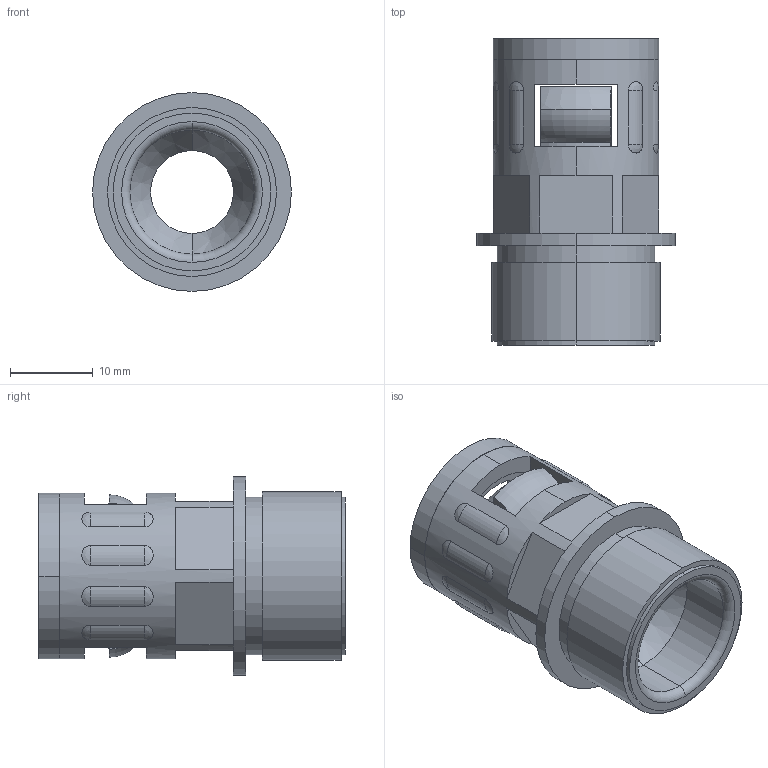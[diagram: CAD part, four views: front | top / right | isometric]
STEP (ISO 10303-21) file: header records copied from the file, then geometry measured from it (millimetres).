
FILE_DESCRIPTION (( 'STEP AP203' ), '1' );
FILE_NAME ('WQG-P13.5-AD13.0.STEP', '2020-03-12T02:00:50', ( '' ), ( '' ), 'SwSTEP 2.0', 'SolidWorks 2016', '' );
FILE_SCHEMA (( 'CONFIG_CONTROL_DESIGN' ));
Length unit declared in the file: millimetre
Products named in the file (4): GFD-AD13.0; NSK-AD13.0; WQG-P13.5-AD13.0; WQG-P13.5-AD13.0-01
Assembly tree (3 placements, depth 2):
  WQG-P13.5-AD13.0
    WQG-P13.5-AD13.0-01
    GFD-AD13.0
    NSK-AD13.0
Bounding box: 24 x 37 x 24 mm (x, y, z)
Volume: 4969.9 mm3; surface area: 7363.8 mm2
Topology: 2 solids, 5 shells, 183 faces, 485 edges, 304 vertices
Faces by surface type: cone 59, plane 54, cylinder 34, torus 20, sphere 16
Entity records: 6347 total; most frequent: CARTESIAN_POINT 1511, DIRECTION 981, ORIENTED_EDGE 898, EDGE_CURVE 453, AXIS2_PLACEMENT_3D 406, VERTEX_POINT 288, CIRCLE 216, EDGE_LOOP 207
